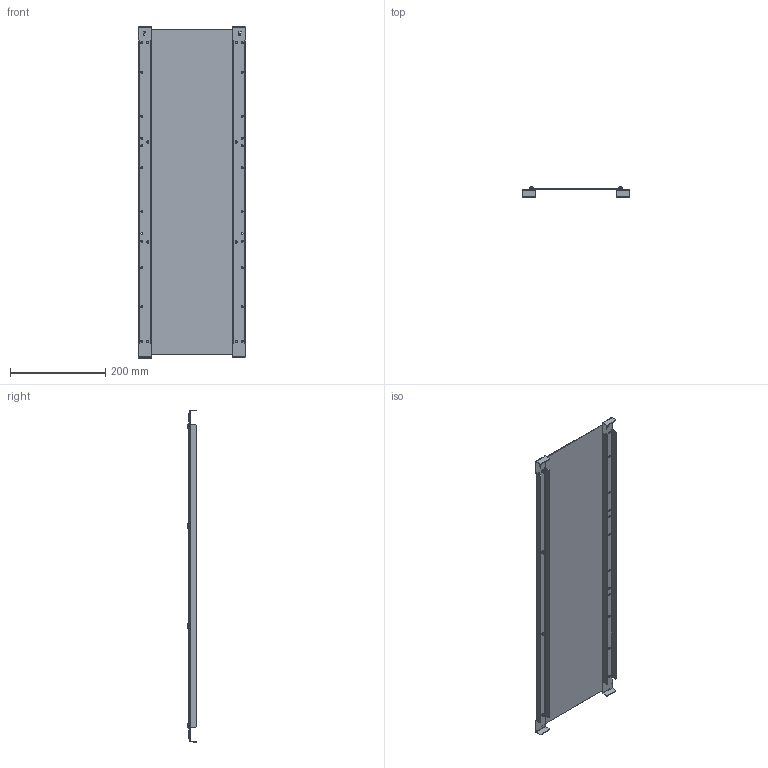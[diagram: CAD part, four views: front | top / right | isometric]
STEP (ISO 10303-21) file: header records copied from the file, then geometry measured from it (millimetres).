
FILE_DESCRIPTION (( 'STEP AP203' ), '1' );
FILE_NAME ('R5FCGD8.STEP', '2019-03-22T06:24:17', ( '' ), ( '' ), 'SwSTEP 2.0', 'SolidWorks 2017', '' );
FILE_SCHEMA (( 'CONFIG_CONTROL_DESIGN' ));
Length unit declared in the file: millimetre
Products named in the file (5): RB.1199.00.00.0_-03 (800); RB.1198.00.00.0_-03 (800); RB.1198.00.00.0_-05 (800 mirror); M5x8-DIN7500C_thread; R5FCGD8
Assembly tree (11 placements, depth 2):
  R5FCGD8
    RB.1199.00.00.0_-03 (800)
    RB.1198.00.00.0_-03 (800)
    RB.1198.00.00.0_-05 (800 mirror)
    M5x8-DIN7500C_thread  x8
Bounding box: 226 x 20.06 x 696 mm (x, y, z)
Volume: 311741.7 mm3; surface area: 423662.2 mm2
Topology: 11 solids, 11 shells, 834 faces, 2116 edges, 1296 vertices
Faces by surface type: cone 288, cylinder 248, plane 227, torus 32, bspline 23, sphere 16
Entity records: 11399 total; most frequent: CARTESIAN_POINT 2234, DIRECTION 1798, ORIENTED_EDGE 1736, EDGE_CURVE 868, AXIS2_PLACEMENT_3D 619, LINE 560, VECTOR 560, VERTEX_POINT 547
